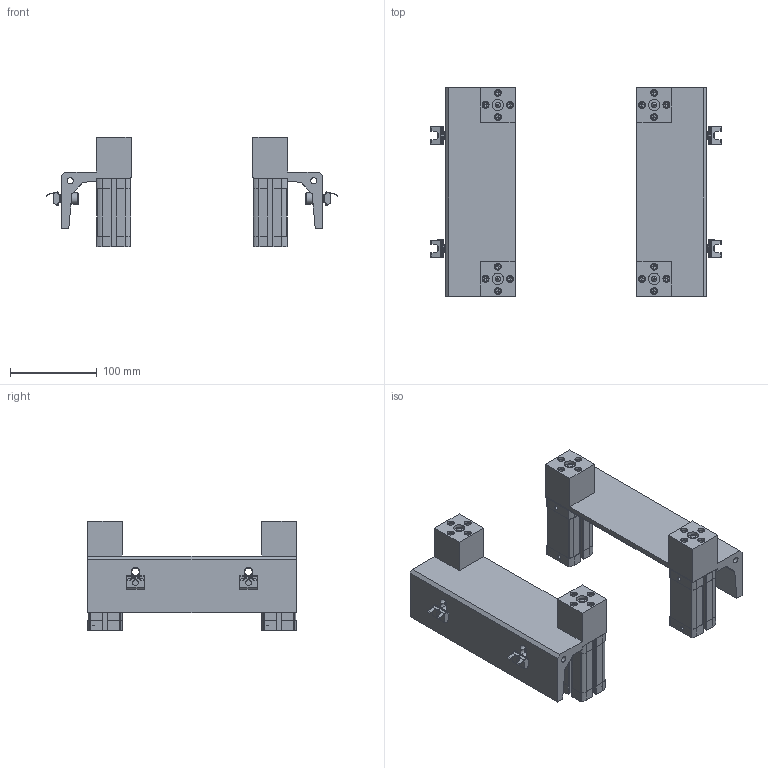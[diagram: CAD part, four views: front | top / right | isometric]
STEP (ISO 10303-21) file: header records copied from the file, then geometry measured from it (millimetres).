
FILE_DESCRIPTION(/* description */ (''),/* implementation_level */ '2;1');
FILE_NAME(/* name */ 'C:\Marketing\01_Versamove-SPU_STEP-Dateien-Homepage\Versamove plus\PE-2010_unten_B400.stp',/* time_stamp */ '2017-02-03T11:29:44+01:00',/* author */ ('herbert.engels'),/* organization */ (''),/* preprocessor_version */ 'ST-DEVELOPER v15.6',/* originating_system */ 'Autodesk Inventor 2015',/* authorisation */ '');
FILE_SCHEMA (('CONFIG_CONTROL_DESIGN'));
Length unit declared in the file: millimetre
Products named in the file (1): PE-2010_unten_B400
Bounding box: 334 x 240 x 126 mm (x, y, z)
Volume: 1215804.4 mm3; surface area: 323784.2 mm2
Topology: 10 solids, 10 shells, 1840 faces, 4752 edges, 3128 vertices
Faces by surface type: plane 1104, cylinder 600, cone 108, torus 28
Full cylindrical faces by diameter (mm): 0.2 x12, 3.242 x12, 4 x16, 4.1 x16, 4.134 x32, 4.4 x4, 4.5 x16, 6 x8, 6.647 x4, 7 x18, 7.5 x8, 8 x24, 8.4 x4, 9 x12, 10 x8, 10.5 x8, 11.5 x8, 13 x8, 13.1 x4, 16 x4, 18 x4, 19 x4, 25 x4
Entity records: 55469 total; most frequent: CARTESIAN_POINT 10295, DIRECTION 9076, ORIENTED_EDGE 8428, EDGE_CURVE 4210, AXIS2_PLACEMENT_3D 3381, VERTEX_POINT 2964, EDGE_LOOP 2446, LINE 2314
